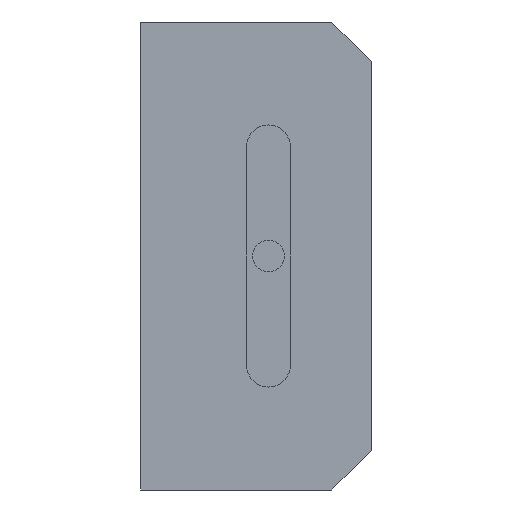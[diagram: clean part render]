
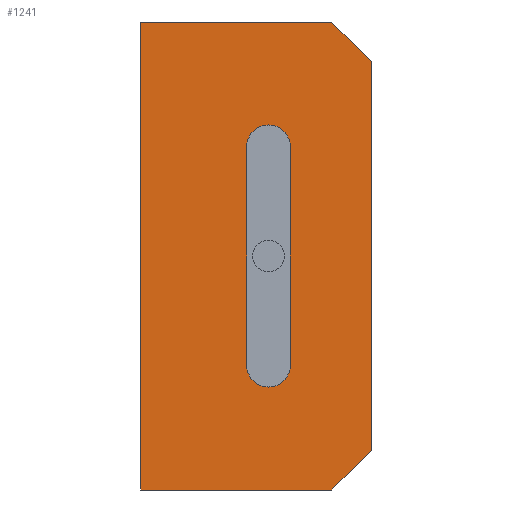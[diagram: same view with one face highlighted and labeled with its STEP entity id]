
A CAD part, front view. The second image highlights one B-rep face of the part: STEP entity #1241.
In plain terms, the highlighted planar face has unit normal (0, -1, 0).
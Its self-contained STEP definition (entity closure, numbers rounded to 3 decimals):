
#20 = VECTOR ( 'NONE', #1250, 1000. ) ;
#27 = VERTEX_POINT ( 'NONE', #703 ) ;
#78 = CIRCLE ( 'NONE', #602, 3.505 ) ;
#84 = CARTESIAN_POINT ( 'NONE',  ( 30.65, 0., -37.5 ) ) ;
#117 = LINE ( 'NONE', #1126, #793 ) ;
#128 = CARTESIAN_POINT ( 'NONE',  ( 30.65, 0., 37.5 ) ) ;
#135 = CARTESIAN_POINT ( 'NONE',  ( 24.005, 0., 17.5 ) ) ;
#139 = VERTEX_POINT ( 'NONE', #632 ) ;
#209 = CIRCLE ( 'NONE', #763, 3.505 ) ;
#211 = FACE_OUTER_BOUND ( 'NONE', #2019, .T. ) ;
#236 = FACE_BOUND ( 'NONE', #1195, .T. ) ;
#251 = EDGE_CURVE ( 'NONE', #27, #1345, #1231, .T. ) ;
#287 = VECTOR ( 'NONE', #1999, 1000. ) ;
#327 = ORIENTED_EDGE ( 'NONE', *, *, #1534, .T. ) ;
#341 = CARTESIAN_POINT ( 'NONE',  ( 0., 0., 37.5 ) ) ;
#362 = CARTESIAN_POINT ( 'NONE',  ( 0., 0., 37.5 ) ) ;
#366 = CARTESIAN_POINT ( 'NONE',  ( 0., 0., 37.5 ) ) ;
#379 = VECTOR ( 'NONE', #2079, 1000. ) ;
#381 = ORIENTED_EDGE ( 'NONE', *, *, #1869, .T. ) ;
#390 = VECTOR ( 'NONE', #1692, 1000. ) ;
#403 = CARTESIAN_POINT ( 'NONE',  ( 20.5, 0., 17.5 ) ) ;
#421 = LINE ( 'NONE', #583, #20 ) ;
#430 = ORIENTED_EDGE ( 'NONE', *, *, #251, .F. ) ;
#458 = VERTEX_POINT ( 'NONE', #581 ) ;
#495 = LINE ( 'NONE', #2015, #390 ) ;
#581 = CARTESIAN_POINT ( 'NONE',  ( 0., 0., -37.5 ) ) ;
#583 = CARTESIAN_POINT ( 'NONE',  ( 37., 0., 31.15 ) ) ;
#602 = AXIS2_PLACEMENT_3D ( 'NONE', #1575, #610, #932 ) ;
#610 = DIRECTION ( 'NONE',  ( 0., -1., 0. ) ) ;
#632 = CARTESIAN_POINT ( 'NONE',  ( 37., 0., -31.15 ) ) ;
#661 = CARTESIAN_POINT ( 'NONE',  ( 20.5, 0., -17.5 ) ) ;
#663 = DIRECTION ( 'NONE',  ( 1., 0., 0. ) ) ;
#670 = DIRECTION ( 'NONE',  ( 0., 1., 0. ) ) ;
#703 = CARTESIAN_POINT ( 'NONE',  ( 16.995, 0., -17.5 ) ) ;
#716 = CARTESIAN_POINT ( 'NONE',  ( 24.005, 0., -17.5 ) ) ;
#757 = EDGE_CURVE ( 'NONE', #2017, #139, #820, .T. ) ;
#763 = AXIS2_PLACEMENT_3D ( 'NONE', #403, #1548, #1709 ) ;
#767 = EDGE_CURVE ( 'NONE', #980, #1064, #117, .T. ) ;
#793 = VECTOR ( 'NONE', #2065, 1000. ) ;
#794 = CARTESIAN_POINT ( 'NONE',  ( 37., 0., 37.5 ) ) ;
#807 = LINE ( 'NONE', #362, #1794 ) ;
#820 = LINE ( 'NONE', #794, #379 ) ;
#835 = VERTEX_POINT ( 'NONE', #912 ) ;
#860 = AXIS2_PLACEMENT_3D ( 'NONE', #661, #1783, #1469 ) ;
#869 = CARTESIAN_POINT ( 'NONE',  ( 37., 0., 31.15 ) ) ;
#912 = CARTESIAN_POINT ( 'NONE',  ( 30.65, 0., -37.5 ) ) ;
#932 = DIRECTION ( 'NONE',  ( 0., 0., -1. ) ) ;
#980 = VERTEX_POINT ( 'NONE', #716 ) ;
#993 = DIRECTION ( 'NONE',  ( 0., 0., 1. ) ) ;
#1002 = ORIENTED_EDGE ( 'NONE', *, *, #767, .F. ) ;
#1024 = ORIENTED_EDGE ( 'NONE', *, *, #1518, .T. ) ;
#1034 = ORIENTED_EDGE ( 'NONE', *, *, #1392, .F. ) ;
#1039 = VERTEX_POINT ( 'NONE', #128 ) ;
#1061 = EDGE_CURVE ( 'NONE', #1345, #980, #78, .T. ) ;
#1064 = VERTEX_POINT ( 'NONE', #135 ) ;
#1126 = CARTESIAN_POINT ( 'NONE',  ( 24.005, 0., -17.5 ) ) ;
#1159 = CARTESIAN_POINT ( 'NONE',  ( 0., 0., 37.5 ) ) ;
#1195 = EDGE_LOOP ( 'NONE', ( #1002, #1883, #430, #1034, #1465 ) ) ;
#1197 = DIRECTION ( 'NONE',  ( 0.707, 0., 0.707 ) ) ;
#1213 = LINE ( 'NONE', #84, #1732 ) ;
#1231 = CIRCLE ( 'NONE', #860, 3.505 ) ;
#1241 = ADVANCED_FACE ( 'NONE', ( #236, #211 ), #1317, .F. ) ;
#1250 = DIRECTION ( 'NONE',  ( -0.707, 0., 0.707 ) ) ;
#1253 = EDGE_CURVE ( 'NONE', #1280, #1039, #1413, .T. ) ;
#1280 = VERTEX_POINT ( 'NONE', #1159 ) ;
#1304 = ORIENTED_EDGE ( 'NONE', *, *, #1466, .T. ) ;
#1317 = PLANE ( 'NONE',  #1397 ) ;
#1325 = CARTESIAN_POINT ( 'NONE',  ( 20.5, 0., -21.005 ) ) ;
#1345 = VERTEX_POINT ( 'NONE', #1325 ) ;
#1361 = ORIENTED_EDGE ( 'NONE', *, *, #1253, .F. ) ;
#1392 = EDGE_CURVE ( 'NONE', #1761, #27, #1776, .T. ) ;
#1397 = AXIS2_PLACEMENT_3D ( 'NONE', #341, #670, #993 ) ;
#1413 = LINE ( 'NONE', #366, #1899 ) ;
#1449 = CARTESIAN_POINT ( 'NONE',  ( 16.995, 0., 17.5 ) ) ;
#1465 = ORIENTED_EDGE ( 'NONE', *, *, #1567, .F. ) ;
#1466 = EDGE_CURVE ( 'NONE', #835, #139, #1213, .T. ) ;
#1469 = DIRECTION ( 'NONE',  ( 0., 0., -1. ) ) ;
#1518 = EDGE_CURVE ( 'NONE', #458, #835, #495, .T. ) ;
#1534 = EDGE_CURVE ( 'NONE', #2017, #1039, #421, .T. ) ;
#1548 = DIRECTION ( 'NONE',  ( 0., -1., 0. ) ) ;
#1567 = EDGE_CURVE ( 'NONE', #1064, #1761, #209, .T. ) ;
#1575 = CARTESIAN_POINT ( 'NONE',  ( 20.5, 0., -17.5 ) ) ;
#1668 = CARTESIAN_POINT ( 'NONE',  ( 16.995, 0., -17.5 ) ) ;
#1692 = DIRECTION ( 'NONE',  ( 1., 0., 0. ) ) ;
#1709 = DIRECTION ( 'NONE',  ( 0., 0., -1. ) ) ;
#1732 = VECTOR ( 'NONE', #1197, 1000. ) ;
#1737 = ORIENTED_EDGE ( 'NONE', *, *, #757, .F. ) ;
#1761 = VERTEX_POINT ( 'NONE', #1449 ) ;
#1776 = LINE ( 'NONE', #1668, #287 ) ;
#1783 = DIRECTION ( 'NONE',  ( 0., -1., 0. ) ) ;
#1787 = DIRECTION ( 'NONE',  ( 0., 0., -1. ) ) ;
#1794 = VECTOR ( 'NONE', #1787, 1000. ) ;
#1869 = EDGE_CURVE ( 'NONE', #1280, #458, #807, .T. ) ;
#1883 = ORIENTED_EDGE ( 'NONE', *, *, #1061, .F. ) ;
#1899 = VECTOR ( 'NONE', #663, 1000. ) ;
#1999 = DIRECTION ( 'NONE',  ( 0., 0., -1. ) ) ;
#2015 = CARTESIAN_POINT ( 'NONE',  ( 0., 0., -37.5 ) ) ;
#2017 = VERTEX_POINT ( 'NONE', #869 ) ;
#2019 = EDGE_LOOP ( 'NONE', ( #1024, #1304, #1737, #327, #1361, #381 ) ) ;
#2065 = DIRECTION ( 'NONE',  ( 0., 0., 1. ) ) ;
#2079 = DIRECTION ( 'NONE',  ( 0., 0., -1. ) ) ;
